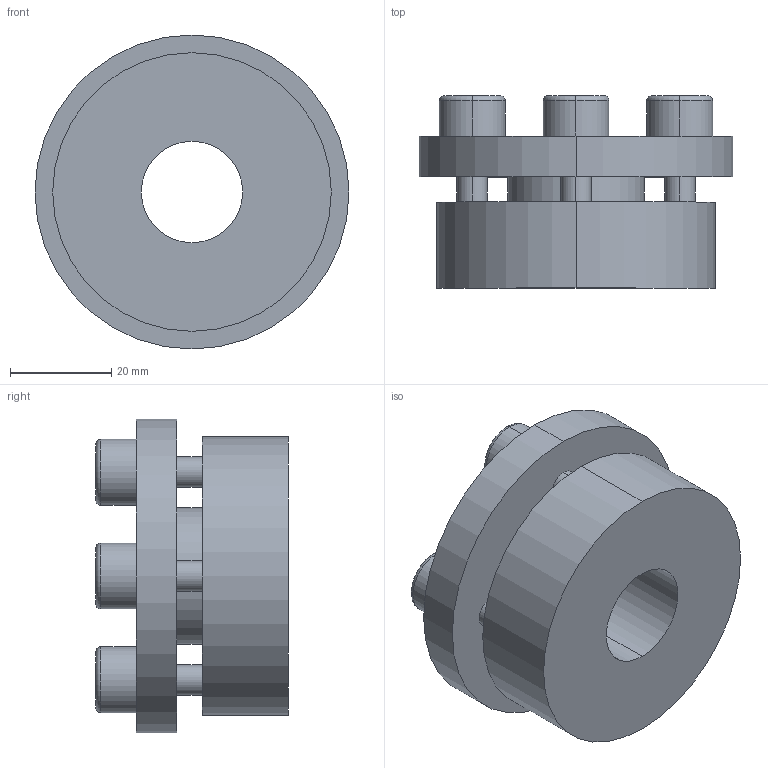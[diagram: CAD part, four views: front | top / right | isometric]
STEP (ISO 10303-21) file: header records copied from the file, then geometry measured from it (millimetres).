
FILE_DESCRIPTION (( 'STEP AP203' ), '1' );
FILE_NAME ('PL-H4 20-55.STEP', '2021-10-23T01:18:26', ( '' ), ( '' ), 'SwSTEP 2.0', 'SolidWorks 2018', '' );
FILE_SCHEMA (( 'CONFIG_CONTROL_DESIGN' ));
Length unit declared in the file: millimetre
Products named in the file (1): PL-H4 20-55
Bounding box: 62 x 38 x 62 mm (x, y, z)
Volume: 62259.9 mm3; surface area: 17539.4 mm2
Topology: 1 solids, 1 shells, 68 faces, 160 edges, 104 vertices
Faces by surface type: plane 36, cylinder 24, torus 8
Entity records: 2061 total; most frequent: DIRECTION 362, CARTESIAN_POINT 333, ORIENTED_EDGE 320, EDGE_CURVE 160, AXIS2_PLACEMENT_3D 133, VERTEX_POINT 104, LINE 96, VECTOR 96
